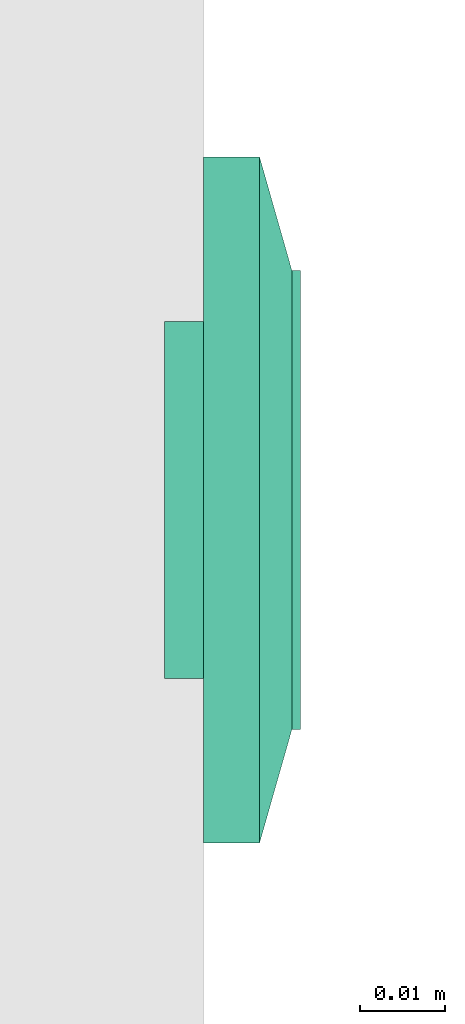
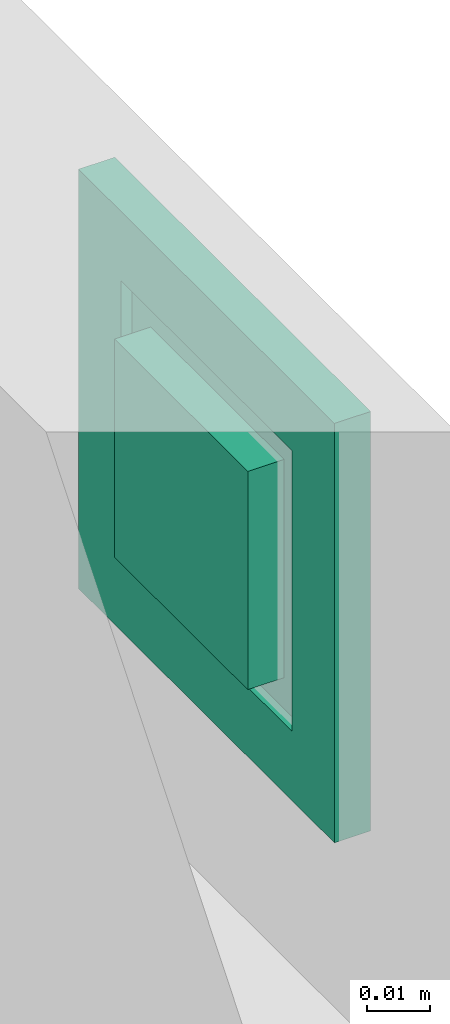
# One storey, part 51 of 166: 1 flow terminal.
"""IFC2X3 building model written with IfcOpenShell, lengths in metres."""

from ifc_helpers import new_model, entity, si_unit, converted_unit, derived_unit, direction, frame, origin, place, context, subcontext, project, spatial, faceted_brep, source, transform, mapped, type_object, type_shapes, element, save


model = new_model("IFC2X3")

# Units and contexts
model_context = context("Model", 3, precision=1e-05, world=origin(), true_north=direction((6.12303176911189e-17, 1.0)))
body_context = subcontext(model_context, "Body", "Model", "MODEL_VIEW")
ifc_project = project(units=[si_unit("LENGTHUNIT", "METRE"), si_unit("AREAUNIT", "SQUARE_METRE"), si_unit("VOLUMEUNIT", "CUBIC_METRE"), converted_unit("PLANEANGLEUNIT", "DEGREE", entity("IfcRatioMeasure", 0.0174532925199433), si_unit("PLANEANGLEUNIT", "RADIAN"), dimensions=[0, 0, 0, 0, 0, 0, 0]), si_unit("MASSUNIT", "GRAM", prefix="KILO"), derived_unit("MASSDENSITYUNIT", [(si_unit("MASSUNIT", "GRAM", prefix="KILO"), 1), (si_unit("LENGTHUNIT", "METRE"), -3)]), si_unit("TIMEUNIT", "SECOND"), si_unit("FREQUENCYUNIT", "HERTZ"), si_unit("THERMODYNAMICTEMPERATUREUNIT", "DEGREE_CELSIUS"), derived_unit("THERMALTRANSMITTANCEUNIT", [(si_unit("MASSUNIT", "GRAM", prefix="KILO"), 1), (si_unit("THERMODYNAMICTEMPERATUREUNIT", "KELVIN"), -1), (si_unit("TIMEUNIT", "SECOND"), -3)]), derived_unit("VOLUMETRICFLOWRATEUNIT", [(si_unit("LENGTHUNIT", "METRE"), 3), (si_unit("TIMEUNIT", "SECOND"), -1)]), si_unit("ELECTRICCURRENTUNIT", "AMPERE"), si_unit("ELECTRICVOLTAGEUNIT", "VOLT"), si_unit("POWERUNIT", "WATT"), si_unit("FORCEUNIT", "NEWTON"), si_unit("ILLUMINANCEUNIT", "LUX"), si_unit("LUMINOUSFLUXUNIT", "LUMEN"), si_unit("LUMINOUSINTENSITYUNIT", "CANDELA"), derived_unit("USERDEFINED", [(si_unit("MASSUNIT", "GRAM", prefix="KILO"), -1), (si_unit("LENGTHUNIT", "METRE"), -2), (si_unit("TIMEUNIT", "SECOND"), 3), (si_unit("LUMINOUSFLUXUNIT", "LUMEN"), 1)]), derived_unit("LINEARVELOCITYUNIT", [(si_unit("LENGTHUNIT", "METRE"), 1), (si_unit("TIMEUNIT", "SECOND"), -1)]), si_unit("PRESSUREUNIT", "PASCAL"), derived_unit("USERDEFINED", [(si_unit("LENGTHUNIT", "METRE"), -2), (si_unit("MASSUNIT", "GRAM", prefix="KILO"), 1), (si_unit("TIMEUNIT", "SECOND"), -2)])], contexts=[model_context])

# Site, building, storey
site_placement = place(None, origin())
site = spatial("IfcSite", under=ifc_project, at=site_placement, Name="Default", CompositionType="ELEMENT")
building_placement = place(site_placement, origin())
building = spatial("IfcBuilding", under=site, at=building_placement, CompositionType="ELEMENT")
storey_placement = place(building_placement, frame((0.0, 0.0, 4.27)))
storey = spatial("IfcBuildingStorey", under=building, at=storey_placement, Name="01", CompositionType="ELEMENT", Elevation=4.27)

# Flow terminal
electric_appliance_type = type_object("IfcElectricApplianceType", Name="RJ45 IP20", PredefinedType="NOTDEFINED")
shared_shape = source(origin(), body_context, "Body", "Brep", [
    faceted_brep([(0.00200000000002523, 0.0, 0.00799999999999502), (0.00400000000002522, 0.0, 0.00799999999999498), (0.00500000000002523, 0.00199999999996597, 0.00799999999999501), (0.0110000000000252, 0.00199999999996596, 0.00799999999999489), (0.0120000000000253, 0.0, 0.00799999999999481), (0.0140000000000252, 0.0, 0.00799999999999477), (0.0140000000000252, 0.00399999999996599, 0.00799999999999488), (0.00200000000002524, 0.00399999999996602, 0.00799999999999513), (0.00200000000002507, 0.0, 0.0), (0.00200000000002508, 0.00399999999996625, 0.0), (0.0140000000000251, 0.00399999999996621, 0.0), (0.0140000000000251, 0.0, 0.0), (0.0120000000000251, 0.0, 0.0), (0.0110000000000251, 0.00199999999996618, 0.0), (0.00500000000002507, 0.0019999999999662, 0.0), (0.00400000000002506, 0.0, 0.0)], [[[0, 1, 2, 3, 4, 5, 6, 7]], [[8, 9, 10, 11, 12, 13, 14, 15]], [[1, 0, 8, 15]], [[2, 1, 15, 14]], [[3, 2, 14, 13]], [[4, 3, 13, 12]], [[5, 4, 12, 11]], [[6, 5, 11, 10]], [[7, 6, 10, 9]], [[0, 7, 9, 8]]]),
    faceted_brep([(-0.0139999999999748, 0.0, 0.00799999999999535), (-0.0119999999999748, 0.0, 0.00799999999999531), (-0.0109999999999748, 0.00199999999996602, 0.00799999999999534), (-0.00499999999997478, 0.00199999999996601, 0.00799999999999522), (-0.0039999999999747, 0.0, 0.00799999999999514), (-0.00199999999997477, 0.0, 0.0079999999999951), (-0.00199999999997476, 0.00399999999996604, 0.00799999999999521), (-0.0139999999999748, 0.00399999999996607, 0.00799999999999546), (-0.0139999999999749, 0.0, 0.0), (-0.0139999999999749, 0.00399999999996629, 0.0), (-0.00199999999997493, 0.00399999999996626, 0.0), (-0.00199999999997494, 0.0, 0.0), (-0.00399999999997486, 0.0, 0.0), (-0.00499999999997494, 0.00199999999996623, 0.0), (-0.0109999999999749, 0.00199999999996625, 0.0), (-0.0119999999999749, 0.0, 0.0)], [[[0, 1, 2, 3, 4, 5, 6, 7]], [[8, 9, 10, 11, 12, 13, 14, 15]], [[1, 0, 8, 15]], [[2, 1, 15, 14]], [[3, 2, 14, 13]], [[4, 3, 13, 12]], [[5, 4, 12, 11]], [[6, 5, 11, 10]], [[7, 6, 10, 9]], [[0, 7, 9, 8]]]),
    faceted_brep([(0.0140000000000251, 0.00399999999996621, 0.0), (0.00200000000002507, 0.00399999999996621, 0.0), (0.00200000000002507, -0.00350000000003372, 0.0), (0.0140000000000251, -0.00350000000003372, 0.0), (0.0140000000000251, 0.00399999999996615, 0.00199999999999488), (0.00200000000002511, 0.00399999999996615, 0.00199999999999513), (0.00200000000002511, -0.00393859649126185, 0.00199999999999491), (0.0140000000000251, -0.00393859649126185, 0.00199999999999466), (0.0210000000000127, 0.0209999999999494, 0.00199999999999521), (-0.0209999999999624, 0.0209999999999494, 0.00199999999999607), (-0.0209999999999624, -0.0210000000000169, 0.00199999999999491), (0.0210000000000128, -0.0210000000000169, 0.00199999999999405), (-0.0139999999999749, 0.0039999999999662, 0.00199999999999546), (-0.0019999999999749, 0.0039999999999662, 0.00199999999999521), (-0.00199999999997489, -0.0039385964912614, 0.00199999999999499), (-0.0139999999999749, -0.00393859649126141, 0.00199999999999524), (0.0210000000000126, 0.0209999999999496, -0.00460000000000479), (0.0210000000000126, -0.0210000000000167, -0.00460000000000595), (-0.0209999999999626, -0.0210000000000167, -0.00460000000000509), (-0.0209999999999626, 0.0209999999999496, -0.00460000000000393), (-0.00199999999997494, 0.00399999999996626, 0.0), (-0.0139999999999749, 0.00399999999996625, 0.0), (-0.0139999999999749, -0.00350000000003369, 0.0), (-0.00199999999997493, -0.00350000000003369, 0.0)], [[[0, 1, 2, 3]], [[1, 0, 4, 5]], [[2, 1, 5, 6]], [[3, 2, 6, 7]], [[0, 3, 7, 4]], [[5, 4, 7, 6], [8, 9, 10, 11], [12, 13, 14, 15]], [[16, 17, 18, 19]], [[9, 8, 16, 19]], [[10, 9, 19, 18]], [[11, 10, 18, 17]], [[8, 11, 17, 16]], [[20, 21, 22, 23]], [[21, 20, 13, 12]], [[22, 21, 12, 15]], [[23, 22, 15, 14]], [[20, 23, 14, 13]]], outer=[[True], [True], [True], [True], [True], [False, True, False], [True], [True], [True], [True], [True], [True], [True], [True], [True], [True]]),
    faceted_brep([(0.0270000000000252, 0.026999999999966, 0.0113999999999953), (-0.0269999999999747, 0.026999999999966, 0.0113999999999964), (-0.0269999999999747, -0.0270000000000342, 0.0113999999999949), (0.0270000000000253, -0.0270000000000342, 0.0113999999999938), (0.0020000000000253, 0.00399999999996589, 0.0113999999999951), (0.0140000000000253, 0.00399999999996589, 0.0113999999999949), (0.0140000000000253, -0.00600000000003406, 0.0113999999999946), (0.0020000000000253, -0.00600000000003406, 0.0113999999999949), (-0.0139999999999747, 0.00399999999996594, 0.0113999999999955), (-0.00199999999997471, 0.00399999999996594, 0.0113999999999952), (-0.00199999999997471, -0.0060000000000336, 0.0113999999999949), (-0.0139999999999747, -0.00600000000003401, 0.0113999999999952), (0.0270000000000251, 0.0269999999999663, 0.00199999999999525), (0.0270000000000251, -0.0270000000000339, 0.00199999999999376), (-0.0269999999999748, -0.0270000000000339, 0.00199999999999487), (-0.0269999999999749, 0.0269999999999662, 0.00199999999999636), (0.0140000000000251, 0.00399999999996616, 0.00199999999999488), (0.00200000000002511, 0.00399999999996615, 0.00199999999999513), (0.00200000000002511, -0.00393859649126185, 0.00199999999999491), (0.0140000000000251, -0.00393859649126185, 0.00199999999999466), (-0.00199999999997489, 0.0039999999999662, 0.00199999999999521), (-0.0139999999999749, 0.0039999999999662, 0.00199999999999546), (-0.0139999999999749, -0.0039385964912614, 0.00199999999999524), (-0.00199999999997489, -0.0039385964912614, 0.00199999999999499)], [[[0, 1, 2, 3], [4, 5, 6, 7], [8, 9, 10, 11]], [[12, 13, 14, 15], [16, 17, 18, 19], [20, 21, 22, 23]], [[1, 0, 12, 15]], [[2, 1, 15, 14]], [[3, 2, 14, 13]], [[0, 3, 13, 12]], [[4, 17, 16, 5]], [[17, 4, 7, 18]], [[18, 7, 6, 19]], [[5, 16, 19, 6]], [[8, 21, 20, 9]], [[21, 8, 11, 22]], [[22, 11, 10, 23]], [[9, 20, 23, 10]]]),
    faceted_brep([(0.027000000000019, 0.0269999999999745, 0.00659999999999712), (-0.0269999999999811, 0.0269999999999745, 0.00659999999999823), (-0.026999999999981, -0.0270000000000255, 0.00659999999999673), (0.027000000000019, -0.0270000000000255, 0.00659999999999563), (0.040350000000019, 0.0403499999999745, 0.00659999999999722), (0.040350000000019, -0.0403500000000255, 0.00659999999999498), (-0.0403499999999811, -0.0403500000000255, 0.00659999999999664), (-0.0403499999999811, 0.0403499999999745, 0.00659999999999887), (-0.026999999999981, 0.0269999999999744, 0.0103999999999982), (0.027000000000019, 0.0269999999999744, 0.0103999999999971), (-0.026999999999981, -0.0270000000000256, 0.0103999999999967), (0.027000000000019, -0.0270000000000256, 0.0103999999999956)], [[[0, 1, 2, 3], [4, 5, 6, 7]], [[4, 7, 8, 9]], [[7, 6, 10, 8]], [[6, 5, 11, 10]], [[5, 4, 9, 11]], [[0, 9, 8, 1]], [[1, 8, 10, 2]], [[2, 10, 11, 3]], [[9, 0, 3, 11]]], outer=[[False, True], [True], [True], [True], [True], [True], [True], [True], [True]]),
    faceted_brep([(0.040350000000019, 0.0403499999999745, 0.00659999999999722), (-0.0403499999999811, 0.0403499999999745, 0.00659999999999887), (-0.0403499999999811, -0.0403500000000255, 0.00659999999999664), (0.040350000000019, -0.0403500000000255, 0.00659999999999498), (-0.0269999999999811, 0.0269999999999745, 0.00659999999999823), (0.0270000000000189, 0.0269999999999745, 0.00659999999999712), (0.0270000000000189, -0.0270000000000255, 0.00659999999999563), (-0.0269999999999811, -0.0270000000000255, 0.00659999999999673), (0.0403500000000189, 0.0403499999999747, 0.0), (0.0403500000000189, -0.0403500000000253, 0.0), (-0.0403499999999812, -0.0403500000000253, 0.0), (-0.0403499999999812, 0.0403499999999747, 0.0), (0.0270000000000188, 0.0269999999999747, 0.0), (-0.0269999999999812, 0.0269999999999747, 0.0), (-0.0269999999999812, -0.0270000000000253, 0.0), (0.0270000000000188, -0.0270000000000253, 0.0)], [[[0, 1, 2, 3], [4, 5, 6, 7]], [[8, 9, 10, 11], [12, 13, 14, 15]], [[1, 0, 8, 11]], [[2, 1, 11, 10]], [[3, 2, 10, 9]], [[0, 3, 9, 8]], [[12, 5, 4, 13]], [[13, 4, 7, 14]], [[14, 7, 6, 15]], [[5, 12, 15, 6]]]),
])
type_shapes(electric_appliance_type, [shared_shape])
flow_terminal_placement = place(building_placement, frame((33.6087436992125, -189.009250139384, 4.70800000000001), z_axis=(1.0, 0.0, 0.0), x_axis=(0.0, 1.0, 0.0)))
element("IfcFlowTerminal", 1, at=flow_terminal_placement, inside=storey, type_object=electric_appliance_type, Name="INT_Prise RJ45:RJ45 IP20", ObjectType="INT_Prise RJ45:RJ45 IP20", context=body_context, shape_type="MappedRepresentation", body=[
    mapped(shared_shape, transform((0.0, 0.0, 0.0), scale=1.0)),
])

save(model, "model.ifc")
